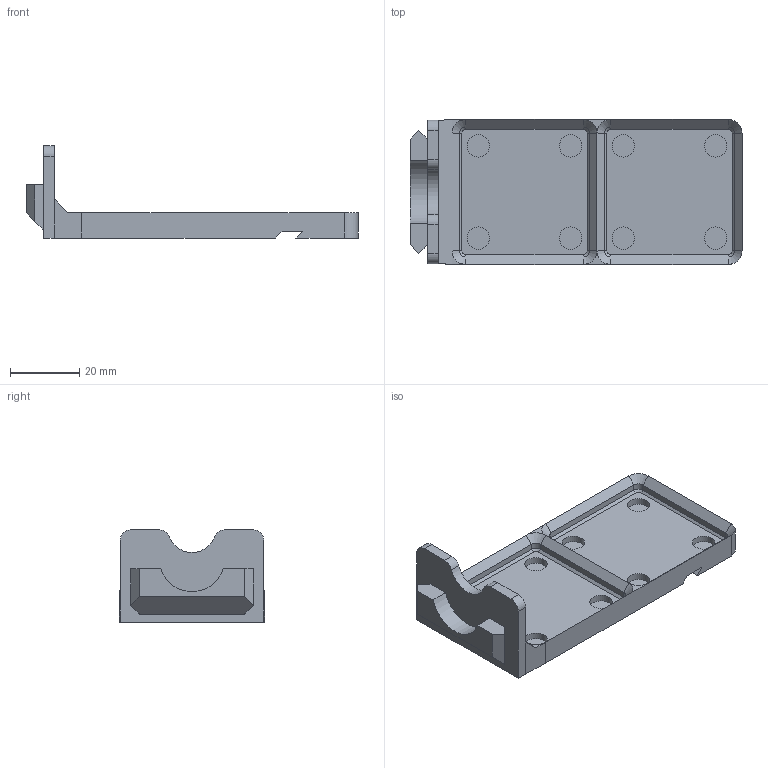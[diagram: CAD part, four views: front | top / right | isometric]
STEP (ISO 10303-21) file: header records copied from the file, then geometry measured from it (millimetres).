
FILE_DESCRIPTION(/* description */ ('','CAx-IF Rec.Pracs.---Representation and Presentation of Product Manufacturing Information (PMI)---4.0---2014-10-13'),/* implementation_level */ '2;1');
FILE_NAME(/* name */ 'Goews Single Hanger Gridfinity with Magnets 1x2 Base.step',/* time_stamp */ '2024-12-14T22:25:28-05:00',/* author */ (''),/* organization */ (''),/* preprocessor_version */ 'ST-DEVELOPER v20',/* originating_system */ 'Autodesk Translation Framework v13.20.0.188',/* authorisation */ '');
FILE_SCHEMA (('AP242_MANAGED_MODEL_BASED_3D_ENGINEERING_MIM_LF { 1 0 10303 442 1 1 4 }'));
Length unit declared in the file: millimetre
Products named in the file (1): Goews Single Hanger Gridfinity with Magnets  1x2 Base
Bounding box: 96.15 x 42 x 26.72 mm (x, y, z)
Volume: 17247.7 mm3; surface area: 12934.5 mm2
Topology: 1 solids, 1 shells, 113 faces, 250 edges, 148 vertices
Faces by surface type: plane 67, cylinder 30, cone 16
Full cylindrical faces by diameter (mm): 6.5 x8
Entity records: 3079 total; most frequent: DIRECTION 548, CARTESIAN_POINT 512, ORIENTED_EDGE 500, EDGE_CURVE 250, AXIS2_PLACEMENT_3D 184, LINE 180, VECTOR 180, VERTEX_POINT 148
